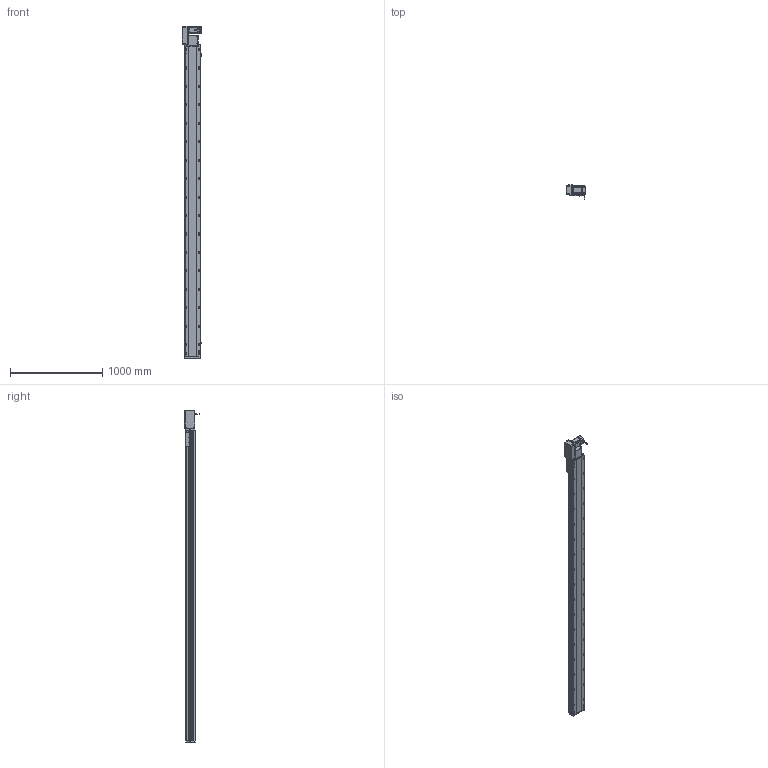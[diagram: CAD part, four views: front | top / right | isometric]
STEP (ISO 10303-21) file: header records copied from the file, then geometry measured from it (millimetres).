
FILE_DESCRIPTION (( 'STEP AP214' ), '1' );
FILE_NAME ('RTB17S-XX-3100-L-M75-C4.STEP', '2025-12-12T00:25:28', ( '' ), ( '' ), 'SwSTEP 2.0', 'SolidWorks 2018', '' );
FILE_SCHEMA (( 'AUTOMOTIVE_DESIGN' ));
Length unit declared in the file: millimetre
Products named in the file (15): RTH13-BL-012覜茼え俋离^RTB17S-賑釱_RTB17S-XX-XX-L-M75-C4; EE672^RTB17S-XX-XX-L-M75-C4; RTB17S-L-001-耜醱啣^RTB17S-XX-XX-L-M75-C4; RMP17S-L-014-T20-P75--々湍釱^RTB17S-L-々湍釱蚾饜-750W_RTB17S-XX-XX-L-M75-C4; RTB17S-XX-3100-L-M75-C4; RTB22S-GY-008-M75--萇儂啣^RTB17S-L-々湍釱蚾饜-750W_RTB17S-XX-XX-L-M75-C4; RTB22S-GY-018P^RTB17S-L-々湍釱蚾饜-750W_RTB17S-XX-XX-L-M75-C4; RTB17-R-011菁釱^RTB17S-XX-XX-L-M75-C4; RTB17S-賑釱^RTB17S-XX-XX-L-M75-C4; RTB17S-L-々湍釱蚾饜-750W^RTB17S-XX-XX-L-M75-C4; RTB22S-GY-005P^RTB17S-L-々湍釱蚾饜-750W_RTB17S-XX-XX-L-M75-C4; 750W萇儂^RTB17S-XX-XX-L-M75-C4; RTB17S-L-007奻裔^RTB17S-XX-XX-L-M75-C4; RTB22S-GY-017P^RTB17S-L-々湍釱蚾饜-750W_RTB17S-XX-XX-L-M75-C4; RTB17S-L-004-賑釱^RTB17S-賑釱_RTB17S-XX-XX-L-M75-C4
Assembly tree (17 placements, depth 3):
  RTB17S-XX-3100-L-M75-C4
    RTB17-R-011菁釱^RTB17S-XX-XX-L-M75-C4
    EE672^RTB17S-XX-XX-L-M75-C4  x3
    RTB17S-L-001-耜醱啣^RTB17S-XX-XX-L-M75-C4
    RTB17S-賑釱^RTB17S-XX-XX-L-M75-C4
      RTB17S-L-004-賑釱^RTB17S-賑釱_RTB17S-XX-XX-L-M75-C4
      RTH13-BL-012覜茼え俋离^RTB17S-賑釱_RTB17S-XX-XX-L-M75-C4
    RTB17S-L-007奻裔^RTB17S-XX-XX-L-M75-C4
    750W萇儂^RTB17S-XX-XX-L-M75-C4
    RTB17S-L-々湍釱蚾饜-750W^RTB17S-XX-XX-L-M75-C4
      RMP17S-L-014-T20-P75--々湍釱^RTB17S-L-々湍釱蚾饜-750W_RTB17S-XX-XX-L-M75-C4
      RTB22S-GY-005P^RTB17S-L-々湍釱蚾饜-750W_RTB17S-XX-XX-L-M75-C4
      RTB22S-GY-017P^RTB17S-L-々湍釱蚾饜-750W_RTB17S-XX-XX-L-M75-C4  x2
      RTB22S-GY-008-M75--萇儂啣^RTB17S-L-々湍釱蚾饜-750W_RTB17S-XX-XX-L-M75-C4
      RTB22S-GY-018P^RTB17S-L-々湍釱蚾饜-750W_RTB17S-XX-XX-L-M75-C4
Bounding box: 210.4 x 152.7 x 3599 mm (x, y, z)
Volume: 25325951.5 mm3; surface area: 4651309.7 mm2
Topology: 17 solids, 17 shells, 2265 faces, 6376 edges, 4130 vertices
Faces by surface type: plane 992, cylinder 857, bspline 294, cone 110, sphere 8, torus 4
Entity records: 66550 total; most frequent: CARTESIAN_POINT 19840, ORIENTED_EDGE 9596, DIRECTION 8852, EDGE_CURVE 4798, AXIS2_PLACEMENT_3D 3150, VERTEX_POINT 3134, LINE 2552, VECTOR 2552
